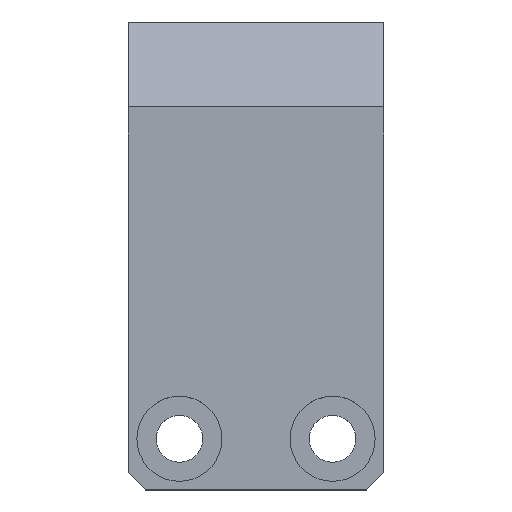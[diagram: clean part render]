
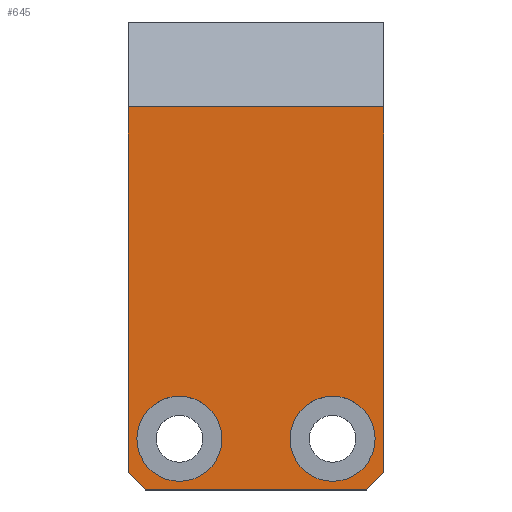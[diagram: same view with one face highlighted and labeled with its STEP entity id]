
A CAD part, top view. The second image highlights one B-rep face of the part: STEP entity #645.
In plain terms, the highlighted planar face has unit normal (0, 0, 1).
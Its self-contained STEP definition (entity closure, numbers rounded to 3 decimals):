
#15 = LINE ( 'NONE', #876, #406 ) ;
#32 = LINE ( 'NONE', #68, #581 ) ;
#66 = CARTESIAN_POINT ( 'NONE',  ( -9., -49., 0. ) ) ;
#68 = CARTESIAN_POINT ( 'NONE',  ( 15., -55., 0. ) ) ;
#72 = AXIS2_PLACEMENT_3D ( 'NONE', #270, #260, #255 ) ;
#80 = DIRECTION ( 'NONE',  ( 0., 0., 1. ) ) ;
#81 = DIRECTION ( 'NONE',  ( 1., 0., 0. ) ) ;
#96 = DIRECTION ( 'NONE',  ( 1., 0., 0. ) ) ;
#110 = EDGE_CURVE ( 'NONE', #653, #794, #32, .T. ) ;
#127 = EDGE_CURVE ( 'NONE', #653, #758, #586, .T. ) ;
#137 = CARTESIAN_POINT ( 'NONE',  ( -15., -55., 0. ) ) ;
#141 = DIRECTION ( 'NONE',  ( 0., -1., 0. ) ) ;
#160 = CARTESIAN_POINT ( 'NONE',  ( -4., -49., 0. ) ) ;
#178 = DIRECTION ( 'NONE',  ( 0.707, -0.707, 0. ) ) ;
#185 = CARTESIAN_POINT ( 'NONE',  ( -9., -49., 0. ) ) ;
#186 = EDGE_CURVE ( 'NONE', #734, #751, #562, .T. ) ;
#194 = DIRECTION ( 'NONE',  ( 0., 0., 1. ) ) ;
#198 = CARTESIAN_POINT ( 'NONE',  ( 15., -10., 0. ) ) ;
#200 = DIRECTION ( 'NONE',  ( -1., 0., 0. ) ) ;
#206 = VERTEX_POINT ( 'NONE', #160 ) ;
#212 = AXIS2_PLACEMENT_3D ( 'NONE', #841, #844, #868 ) ;
#222 = CARTESIAN_POINT ( 'NONE',  ( 9., -49., 0. ) ) ;
#225 = DIRECTION ( 'NONE',  ( 0., 0., 1. ) ) ;
#227 = ORIENTED_EDGE ( 'NONE', *, *, #358, .F. ) ;
#231 = ORIENTED_EDGE ( 'NONE', *, *, #533, .T. ) ;
#234 = DIRECTION ( 'NONE',  ( 1., 0., 0. ) ) ;
#236 = VECTOR ( 'NONE', #200, 1000. ) ;
#238 = PLANE ( 'NONE',  #72 ) ;
#245 = DIRECTION ( 'NONE',  ( -1., 0., 0. ) ) ;
#248 = CARTESIAN_POINT ( 'NONE',  ( 4., -49., 0. ) ) ;
#250 = EDGE_CURVE ( 'NONE', #827, #628, #542, .T. ) ;
#255 = DIRECTION ( 'NONE',  ( -1., 0., 0. ) ) ;
#257 = DIRECTION ( 'NONE',  ( 0.707, 0.707, 0. ) ) ;
#260 = DIRECTION ( 'NONE',  ( 0., 0., -1. ) ) ;
#267 = FACE_OUTER_BOUND ( 'NONE', #747, .T. ) ;
#270 = CARTESIAN_POINT ( 'NONE',  ( 15., -55., 0. ) ) ;
#299 = CARTESIAN_POINT ( 'NONE',  ( -15., -10., 0. ) ) ;
#306 = CARTESIAN_POINT ( 'NONE',  ( 13., -55., 0. ) ) ;
#324 = EDGE_CURVE ( 'NONE', #628, #827, #462, .T. ) ;
#342 = CARTESIAN_POINT ( 'NONE',  ( -14., -49., 0. ) ) ;
#358 = EDGE_CURVE ( 'NONE', #780, #758, #657, .T. ) ;
#395 = CIRCLE ( 'NONE', #826, 5. ) ;
#398 = CARTESIAN_POINT ( 'NONE',  ( -15., -53., 0. ) ) ;
#399 = FACE_BOUND ( 'NONE', #740, .T. ) ;
#404 = FACE_BOUND ( 'NONE', #748, .T. ) ;
#406 = VECTOR ( 'NONE', #178, 1000. ) ;
#407 = LINE ( 'NONE', #198, #236 ) ;
#430 = ORIENTED_EDGE ( 'NONE', *, *, #688, .F. ) ;
#462 = CIRCLE ( 'NONE', #212, 5. ) ;
#475 = ORIENTED_EDGE ( 'NONE', *, *, #324, .F. ) ;
#488 = CIRCLE ( 'NONE', #664, 5. ) ;
#497 = CARTESIAN_POINT ( 'NONE',  ( 15., -53., 0. ) ) ;
#515 = VECTOR ( 'NONE', #809, 1000. ) ;
#522 = CARTESIAN_POINT ( 'NONE',  ( 15., -53., 0. ) ) ;
#533 = EDGE_CURVE ( 'NONE', #751, #794, #15, .T. ) ;
#542 = CIRCLE ( 'NONE', #574, 5. ) ;
#555 = VECTOR ( 'NONE', #141, 1000. ) ;
#562 = LINE ( 'NONE', #137, #555 ) ;
#574 = AXIS2_PLACEMENT_3D ( 'NONE', #222, #225, #234 ) ;
#577 = VECTOR ( 'NONE', #257, 1000. ) ;
#581 = VECTOR ( 'NONE', #245, 1000. ) ;
#586 = LINE ( 'NONE', #497, #577 ) ;
#595 = EDGE_CURVE ( 'NONE', #780, #734, #407, .T. ) ;
#596 = ORIENTED_EDGE ( 'NONE', *, *, #250, .F. ) ;
#623 = ORIENTED_EDGE ( 'NONE', *, *, #186, .T. ) ;
#628 = VERTEX_POINT ( 'NONE', #248 ) ;
#636 = ORIENTED_EDGE ( 'NONE', *, *, #595, .T. ) ;
#645 = ADVANCED_FACE ( 'NONE', ( #404, #399, #267 ), #238, .F. ) ;
#650 = VERTEX_POINT ( 'NONE', #342 ) ;
#653 = VERTEX_POINT ( 'NONE', #306 ) ;
#657 = LINE ( 'NONE', #761, #515 ) ;
#664 = AXIS2_PLACEMENT_3D ( 'NONE', #185, #194, #96 ) ;
#677 = CARTESIAN_POINT ( 'NONE',  ( 15., -10., 0. ) ) ;
#688 = EDGE_CURVE ( 'NONE', #650, #206, #395, .T. ) ;
#734 = VERTEX_POINT ( 'NONE', #299 ) ;
#740 = EDGE_LOOP ( 'NONE', ( #596, #475 ) ) ;
#742 = ORIENTED_EDGE ( 'NONE', *, *, #127, .T. ) ;
#747 = EDGE_LOOP ( 'NONE', ( #227, #636, #623, #231, #869, #742 ) ) ;
#748 = EDGE_LOOP ( 'NONE', ( #850, #430 ) ) ;
#751 = VERTEX_POINT ( 'NONE', #398 ) ;
#756 = CARTESIAN_POINT ( 'NONE',  ( 14., -49., 0. ) ) ;
#758 = VERTEX_POINT ( 'NONE', #522 ) ;
#761 = CARTESIAN_POINT ( 'NONE',  ( 15., -55., 0. ) ) ;
#780 = VERTEX_POINT ( 'NONE', #677 ) ;
#794 = VERTEX_POINT ( 'NONE', #808 ) ;
#808 = CARTESIAN_POINT ( 'NONE',  ( -13., -55., 0. ) ) ;
#809 = DIRECTION ( 'NONE',  ( 0., -1., 0. ) ) ;
#826 = AXIS2_PLACEMENT_3D ( 'NONE', #66, #80, #81 ) ;
#827 = VERTEX_POINT ( 'NONE', #756 ) ;
#841 = CARTESIAN_POINT ( 'NONE',  ( 9., -49., 0. ) ) ;
#844 = DIRECTION ( 'NONE',  ( 0., 0., 1. ) ) ;
#850 = ORIENTED_EDGE ( 'NONE', *, *, #856, .F. ) ;
#856 = EDGE_CURVE ( 'NONE', #206, #650, #488, .T. ) ;
#868 = DIRECTION ( 'NONE',  ( 1., 0., 0. ) ) ;
#869 = ORIENTED_EDGE ( 'NONE', *, *, #110, .F. ) ;
#876 = CARTESIAN_POINT ( 'NONE',  ( -13., -55., 0. ) ) ;
